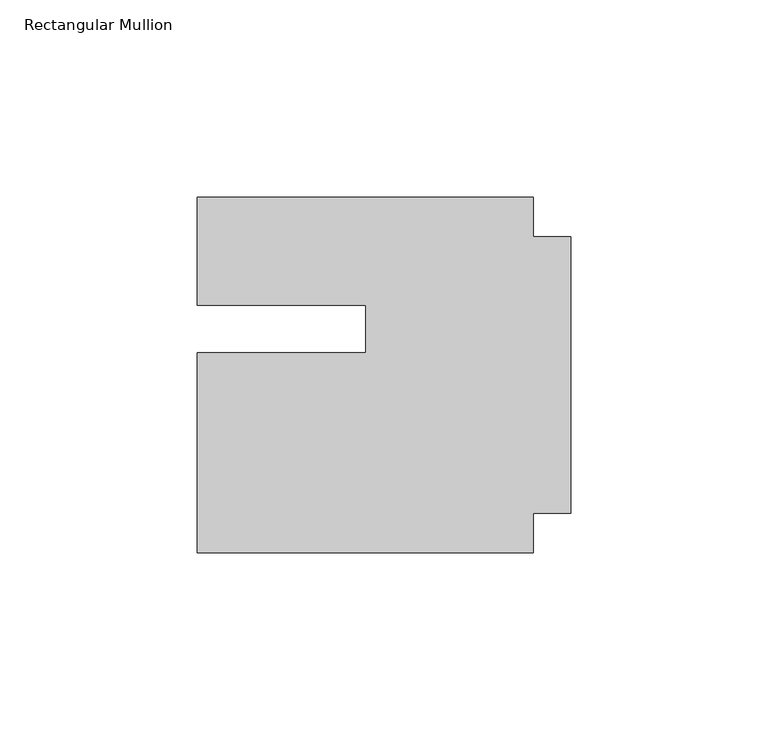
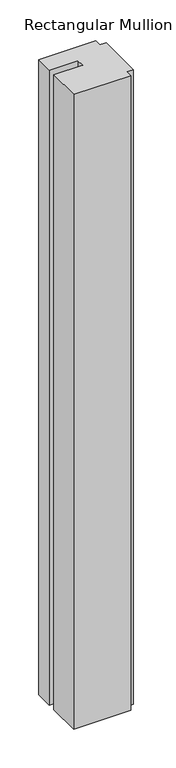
"""IFC4 building model written with IfcOpenShell, lengths in millimetres: member geometry, Rectangular Mullion : Klein_Nature_Profile-Top-Door."""

from ifc_helpers import new_model, si_unit, frame, origin, place, context, project, spatial, polyline, outline, extrude, source, transform, mapped, element, save


def rectangular_mullion_7a5830f6(model_context):
    return source(origin(), model_context, "Body", "SweptSolid", [
        extrude(outline(polyline([(-94.4999981, 5.6500007), (-51.8499996, 5.6500038), (-51.8500005, 17.6500038), (-94.4999972, 17.6500007), (-94.4999952, 45.0000043), (-9.4999995, 44.9999981), (-9.5000002, 34.9999983), (0.0, 34.9999976), (-5.1e-06, -34.9999976), (-9.5000054, -34.9999969), (-9.5000061, -45.0000019), (-94.5000018, -44.9999957), (-94.4999981, 5.6500007)])), frame((0.0, 0.0, -999.9999998), z_axis=(0.0, 0.0, 1.0), x_axis=(1.0, 0.0, 0.0)), (0.0, 0.0, 1.0), 999.9999998),
    ])


if __name__ == "__main__":
    model = new_model("IFC4")
    model_context = context("Model", 3, world=origin())
    ifc_project = project(units=[si_unit("LENGTHUNIT", "METRE", prefix="MILLI")], contexts=[model_context])
    site = spatial("IfcSite", under=ifc_project)
    building = spatial("IfcBuilding", under=site)
    placement = place(None, origin())
    rectangular_mullion_shape = rectangular_mullion_7a5830f6(model_context)
    element("IfcMember", 1, ObjectType="Rectangular Mullion : Klein_Nature_Profile-Top-Door", at=placement, inside=building, context=model_context, shape_type="MappedRepresentation", body=[
        mapped(rectangular_mullion_shape, transform((0.0, 0.0, 0.0), x_axis=(1.0, 0.0, 0.0), y_axis=(0.0, 1.0, 0.0), z_axis=(0.0, 0.0, 1.0))),
    ])
    save(model, "model.ifc")
